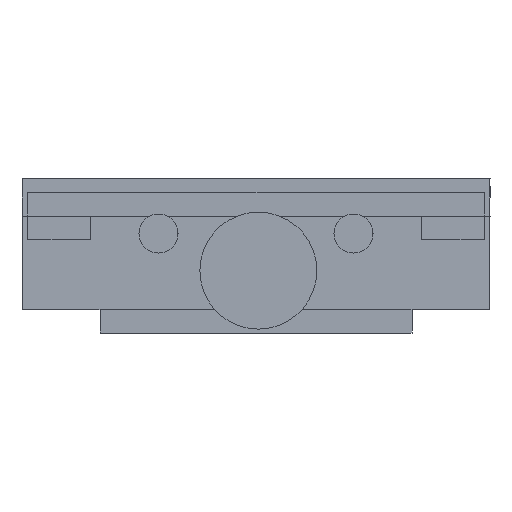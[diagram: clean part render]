
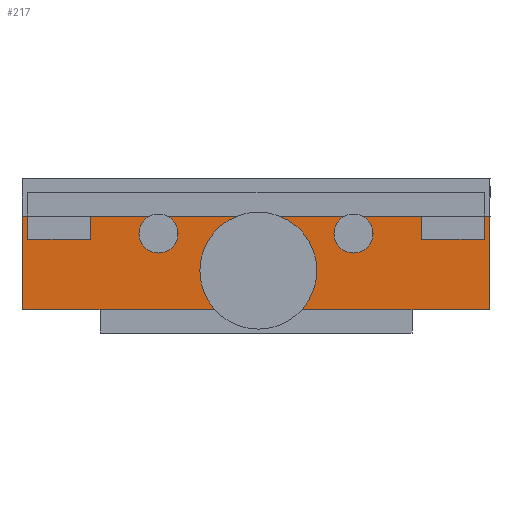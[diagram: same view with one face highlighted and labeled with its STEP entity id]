
A CAD part, front view. The second image highlights one B-rep face of the part: STEP entity #217.
In plain terms, the highlighted planar face has unit normal (0, -1, 0).
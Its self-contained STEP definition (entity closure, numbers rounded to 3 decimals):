
#217 = ADVANCED_FACE( '', ( #560, #561, #562, #563 ), #564, .T. );
#560 = FACE_OUTER_BOUND( '', #1155, .T. );
#561 = FACE_BOUND( '', #1156, .T. );
#562 = FACE_BOUND( '', #1157, .T. );
#563 = FACE_BOUND( '', #1158, .T. );
#564 = PLANE( '', #1159 );
#1155 = EDGE_LOOP( '', ( #1791, #1792, #1793, #1794, #1795, #1796, #1797, #1798, #1799, #1800, #1801, #1802, #1803, #1804 ) );
#1156 = EDGE_LOOP( '', ( #1805 ) );
#1157 = EDGE_LOOP( '', ( #1806 ) );
#1158 = EDGE_LOOP( '', ( #1807 ) );
#1159 = AXIS2_PLACEMENT_3D( '', #1808, #1809, #1810 );
#1791 = ORIENTED_EDGE( '', *, *, #2907, .T. );
#1792 = ORIENTED_EDGE( '', *, *, #2908, .T. );
#1793 = ORIENTED_EDGE( '', *, *, #2909, .T. );
#1794 = ORIENTED_EDGE( '', *, *, #2910, .T. );
#1795 = ORIENTED_EDGE( '', *, *, #2911, .T. );
#1796 = ORIENTED_EDGE( '', *, *, #2912, .T. );
#1797 = ORIENTED_EDGE( '', *, *, #2913, .T. );
#1798 = ORIENTED_EDGE( '', *, *, #2914, .F. );
#1799 = ORIENTED_EDGE( '', *, *, #2915, .T. );
#1800 = ORIENTED_EDGE( '', *, *, #2878, .T. );
#1801 = ORIENTED_EDGE( '', *, *, #2916, .T. );
#1802 = ORIENTED_EDGE( '', *, *, #2917, .F. );
#1803 = ORIENTED_EDGE( '', *, *, #2918, .T. );
#1804 = ORIENTED_EDGE( '', *, *, #2919, .T. );
#1805 = ORIENTED_EDGE( '', *, *, #2920, .T. );
#1806 = ORIENTED_EDGE( '', *, *, #2921, .T. );
#1807 = ORIENTED_EDGE( '', *, *, #2922, .T. );
#1808 = CARTESIAN_POINT( '', ( 0., -30., 6. ) );
#1809 = DIRECTION( '', ( 0., -1., 0. ) );
#1810 = DIRECTION( '', ( 1., 0., 0. ) );
#2878 = EDGE_CURVE( '', #3345, #3346, #3347, .T. );
#2907 = EDGE_CURVE( '', #3395, #3396, #3397, .T. );
#2908 = EDGE_CURVE( '', #3396, #3398, #3399, .T. );
#2909 = EDGE_CURVE( '', #3398, #3400, #3401, .T. );
#2910 = EDGE_CURVE( '', #3400, #3402, #3403, .T. );
#2911 = EDGE_CURVE( '', #3402, #3404, #3405, .T. );
#2912 = EDGE_CURVE( '', #3404, #3406, #3407, .T. );
#2913 = EDGE_CURVE( '', #3406, #3408, #3409, .T. );
#2914 = EDGE_CURVE( '', #3410, #3408, #3411, .T. );
#2915 = EDGE_CURVE( '', #3410, #3345, #3412, .T. );
#2916 = EDGE_CURVE( '', #3346, #3413, #3414, .T. );
#2917 = EDGE_CURVE( '', #3415, #3413, #3416, .T. );
#2918 = EDGE_CURVE( '', #3415, #3417, #3418, .T. );
#2919 = EDGE_CURVE( '', #3417, #3395, #3419, .T. );
#2920 = EDGE_CURVE( '', #3420, #3420, #3421, .T. );
#2921 = EDGE_CURVE( '', #3422, #3422, #3423, .T. );
#2922 = EDGE_CURVE( '', #3424, #3424, #3425, .T. );
#3345 = VERTEX_POINT( '', #4050 );
#3346 = VERTEX_POINT( '', #4051 );
#3347 = LINE( '', #4052, #4053 );
#3395 = VERTEX_POINT( '', #4112 );
#3396 = VERTEX_POINT( '', #4113 );
#3397 = LINE( '', #4114, #4115 );
#3398 = VERTEX_POINT( '', #4116 );
#3399 = LINE( '', #4117, #4118 );
#3400 = VERTEX_POINT( '', #4119 );
#3401 = LINE( '', #4120, #4121 );
#3402 = VERTEX_POINT( '', #4122 );
#3403 = LINE( '', #4123, #4124 );
#3404 = VERTEX_POINT( '', #4125 );
#3405 = LINE( '', #4126, #4127 );
#3406 = VERTEX_POINT( '', #4128 );
#3407 = LINE( '', #4129, #4130 );
#3408 = VERTEX_POINT( '', #4131 );
#3409 = LINE( '', #4132, #4133 );
#3410 = VERTEX_POINT( '', #4134 );
#3411 = LINE( '', #4135, #4136 );
#3412 = LINE( '', #4137, #4138 );
#3413 = VERTEX_POINT( '', #4139 );
#3414 = LINE( '', #4140, #4141 );
#3415 = VERTEX_POINT( '', #4142 );
#3416 = LINE( '', #4143, #4144 );
#3417 = VERTEX_POINT( '', #4145 );
#3418 = LINE( '', #4146, #4147 );
#3419 = LINE( '', #4148, #4149 );
#3420 = VERTEX_POINT( '', #4150 );
#3421 = CIRCLE( '', #4151, 2. );
#3422 = VERTEX_POINT( '', #4152 );
#3423 = CIRCLE( '', #4153, 2. );
#3424 = VERTEX_POINT( '', #4154 );
#3425 = CIRCLE( '', #4155, 5.75 );
#4050 = CARTESIAN_POINT( '', ( -40., -30., 6. ) );
#4051 = CARTESIAN_POINT( '', ( 40., -30., 6. ) );
#4052 = CARTESIAN_POINT( '', ( -15., -30., 6. ) );
#4053 = VECTOR( '', #4959, 1000. );
#4112 = CARTESIAN_POINT( '', ( 58.5, -30., 24. ) );
#4113 = CARTESIAN_POINT( '', ( 42.5, -30., 24. ) );
#4114 = CARTESIAN_POINT( '', ( 50.5, -30., 24. ) );
#4115 = VECTOR( '', #4998, 1000. );
#4116 = CARTESIAN_POINT( '', ( 42.5, -30., 30. ) );
#4117 = CARTESIAN_POINT( '', ( 42.5, -30., 27. ) );
#4118 = VECTOR( '', #4999, 1000. );
#4119 = CARTESIAN_POINT( '', ( -42.5, -30., 30. ) );
#4120 = CARTESIAN_POINT( '', ( 0., -30., 30. ) );
#4121 = VECTOR( '', #5000, 1000. );
#4122 = CARTESIAN_POINT( '', ( -42.5, -30., 24. ) );
#4123 = CARTESIAN_POINT( '', ( -42.5, -30., 27. ) );
#4124 = VECTOR( '', #5001, 1000. );
#4125 = CARTESIAN_POINT( '', ( -58.5, -30., 24. ) );
#4126 = CARTESIAN_POINT( '', ( -50.5, -30., 24. ) );
#4127 = VECTOR( '', #5002, 1000. );
#4128 = CARTESIAN_POINT( '', ( -58.5, -30., 30. ) );
#4129 = CARTESIAN_POINT( '', ( -58.5, -30., 27. ) );
#4130 = VECTOR( '', #5003, 1000. );
#4131 = CARTESIAN_POINT( '', ( -60., -30., 30. ) );
#4132 = CARTESIAN_POINT( '', ( 0., -30., 30. ) );
#4133 = VECTOR( '', #5004, 1000. );
#4134 = CARTESIAN_POINT( '', ( -60., -30., 6. ) );
#4135 = CARTESIAN_POINT( '', ( -60., -30., 6. ) );
#4136 = VECTOR( '', #5005, 1000. );
#4137 = CARTESIAN_POINT( '', ( -15., -30., 6. ) );
#4138 = VECTOR( '', #5006, 1000. );
#4139 = CARTESIAN_POINT( '', ( 60., -30., 6. ) );
#4140 = CARTESIAN_POINT( '', ( -15., -30., 6. ) );
#4141 = VECTOR( '', #5007, 1000. );
#4142 = CARTESIAN_POINT( '', ( 60., -30., 30. ) );
#4143 = CARTESIAN_POINT( '', ( 60., -30., 6. ) );
#4144 = VECTOR( '', #5008, 1000. );
#4145 = CARTESIAN_POINT( '', ( 58.5, -30., 30. ) );
#4146 = CARTESIAN_POINT( '', ( 0., -30., 30. ) );
#4147 = VECTOR( '', #5009, 1000. );
#4148 = CARTESIAN_POINT( '', ( 58.5, -30., 27. ) );
#4149 = VECTOR( '', #5010, 1000. );
#4150 = CARTESIAN_POINT( '', ( 25., -30., 23.5 ) );
#4151 = AXIS2_PLACEMENT_3D( '', #5011, #5012, #5013 );
#4152 = CARTESIAN_POINT( '', ( -25., -30., 23.5 ) );
#4153 = AXIS2_PLACEMENT_3D( '', #5014, #5015, #5016 );
#4154 = CARTESIAN_POINT( '', ( 0., -30., 10.25 ) );
#4155 = AXIS2_PLACEMENT_3D( '', #5017, #5018, #5019 );
#4959 = DIRECTION( '', ( 1., 0., 0. ) );
#4998 = DIRECTION( '', ( -1., 0., 0. ) );
#4999 = DIRECTION( '', ( 0., 0., 1. ) );
#5000 = DIRECTION( '', ( -1., 0., 0. ) );
#5001 = DIRECTION( '', ( 0., 0., -1. ) );
#5002 = DIRECTION( '', ( -1., 0., 0. ) );
#5003 = DIRECTION( '', ( 0., 0., 1. ) );
#5004 = DIRECTION( '', ( -1., 0., 0. ) );
#5005 = DIRECTION( '', ( 0., 0., 1. ) );
#5006 = DIRECTION( '', ( 1., 0., 0. ) );
#5007 = DIRECTION( '', ( 1., 0., 0. ) );
#5008 = DIRECTION( '', ( 0., 0., -1. ) );
#5009 = DIRECTION( '', ( -1., 0., 0. ) );
#5010 = DIRECTION( '', ( 0., 0., -1. ) );
#5011 = CARTESIAN_POINT( '', ( 25., -30., 25.5 ) );
#5012 = DIRECTION( '', ( 0., 1., 0. ) );
#5013 = DIRECTION( '', ( 0., 0., -1. ) );
#5014 = CARTESIAN_POINT( '', ( -25., -30., 25.5 ) );
#5015 = DIRECTION( '', ( 0., 1., 0. ) );
#5016 = DIRECTION( '', ( 0., 0., -1. ) );
#5017 = CARTESIAN_POINT( '', ( 0., -30., 16. ) );
#5018 = DIRECTION( '', ( 0., 1., 0. ) );
#5019 = DIRECTION( '', ( 0., 0., -1. ) );
